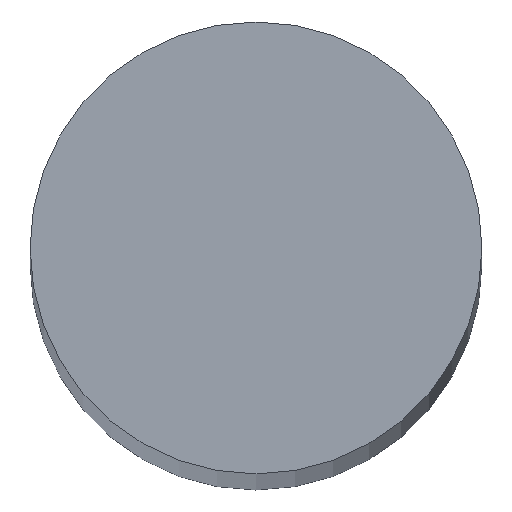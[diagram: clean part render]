
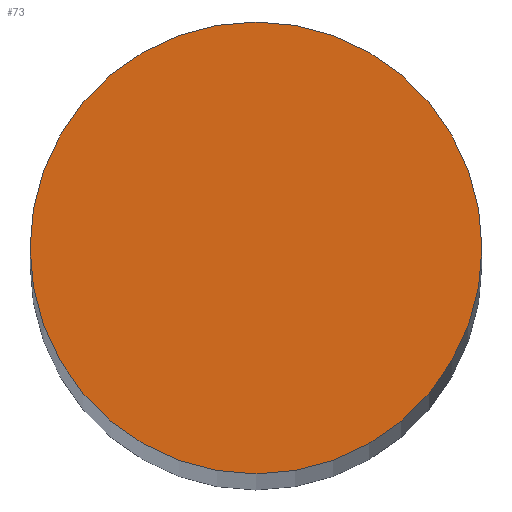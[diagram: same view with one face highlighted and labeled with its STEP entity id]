
A CAD part, top view. The second image highlights one B-rep face of the part: STEP entity #73.
In plain terms, the highlighted planar face has unit normal (0, 0, 1).
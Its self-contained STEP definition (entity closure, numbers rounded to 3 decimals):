
#8 = ORIENTED_EDGE ( 'NONE', *, *, #67, .T. ) ;
#9 = ORIENTED_EDGE ( 'NONE', *, *, #56, .T. ) ;
#25 = EDGE_LOOP ( 'NONE', ( #9, #8 ) ) ;
#33 = CIRCLE ( 'NONE', #66, 6. ) ;
#36 = CIRCLE ( 'NONE', #57, 6. ) ;
#39 = FACE_OUTER_BOUND ( 'NONE', #25, .T. ) ;
#56 = EDGE_CURVE ( 'NONE', #81, #78, #33, .T. ) ;
#57 = AXIS2_PLACEMENT_3D ( 'NONE', #98, #100, #101 ) ;
#60 = AXIS2_PLACEMENT_3D ( 'NONE', #113, #116, #117 ) ;
#66 = AXIS2_PLACEMENT_3D ( 'NONE', #92, #93, #94 ) ;
#67 = EDGE_CURVE ( 'NONE', #78, #81, #36, .T. ) ;
#73 = ADVANCED_FACE ( 'NONE', ( #39 ), #114, .T. ) ;
#78 = VERTEX_POINT ( 'NONE', #115 ) ;
#81 = VERTEX_POINT ( 'NONE', #119 ) ;
#92 = CARTESIAN_POINT ( 'NONE',  ( 0., 0., 122.5 ) ) ;
#93 = DIRECTION ( 'NONE',  ( 0., 0., 1. ) ) ;
#94 = DIRECTION ( 'NONE',  ( 1., 0., 0. ) ) ;
#98 = CARTESIAN_POINT ( 'NONE',  ( 0., 0., 122.5 ) ) ;
#100 = DIRECTION ( 'NONE',  ( 0., 0., 1. ) ) ;
#101 = DIRECTION ( 'NONE',  ( 1., 0., 0. ) ) ;
#113 = CARTESIAN_POINT ( 'NONE',  ( 0., 0., 122.5 ) ) ;
#114 = PLANE ( 'NONE',  #60 ) ;
#115 = CARTESIAN_POINT ( 'NONE',  ( 6., 0., 122.5 ) ) ;
#116 = DIRECTION ( 'NONE',  ( 0., 0., 1. ) ) ;
#117 = DIRECTION ( 'NONE',  ( 1., 0., 0. ) ) ;
#119 = CARTESIAN_POINT ( 'NONE',  ( -6., 0., 122.5 ) ) ;
